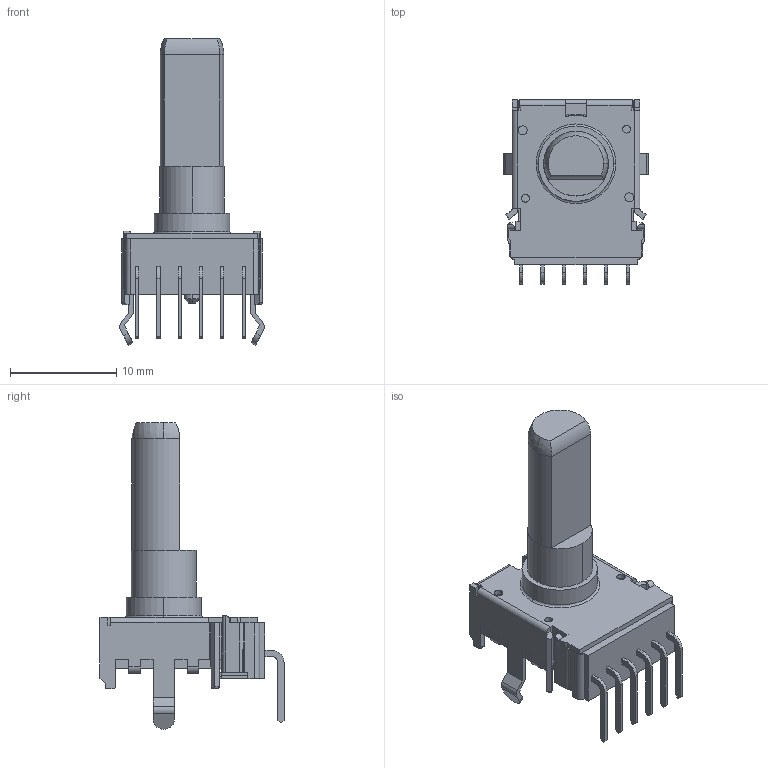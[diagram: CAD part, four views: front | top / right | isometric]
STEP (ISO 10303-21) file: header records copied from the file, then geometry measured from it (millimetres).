
FILE_DESCRIPTION (( 'STEP AP214' ), '1' );
FILE_NAME ('RK12L12-F25V.STEP', '2012-06-20T07:53:33', ( '' ), ( '' ), 'SwSTEP 2.0', 'SolidWorks 2010', '' );
FILE_SCHEMA (( 'AUTOMOTIVE_DESIGN' ));
Length unit declared in the file: millimetre
Products named in the file (1): RK12L12-F25V
Bounding box: 13.6 x 17.3 x 28.8 mm (x, y, z)
Volume: 1418.2 mm3; surface area: 1304.7 mm2
Topology: 1 solids, 1 shells, 429 faces, 1163 edges, 755 vertices
Faces by surface type: plane 328, cylinder 84, bspline 8, torus 4, sphere 3, cone 2
Entity records: 18343 total; most frequent: CARTESIAN_POINT 2786, ORIENTED_EDGE 2322, DIRECTION 2130, EDGE_CURVE 1161, VECTOR 932, LINE 932, VERTEX_POINT 754, AXIS2_PLACEMENT_3D 599
